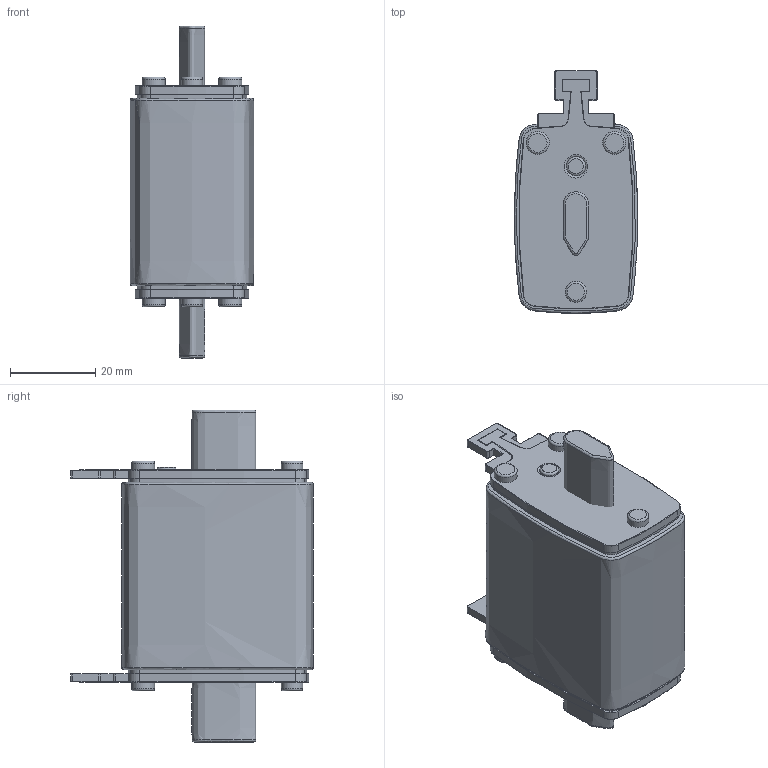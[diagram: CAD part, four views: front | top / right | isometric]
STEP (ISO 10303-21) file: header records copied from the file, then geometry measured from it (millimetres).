
FILE_DESCRIPTION(/* description */ (''),/* implementation_level */ '2;1');
FILE_NAME(/* name */ '3D NH00 500V-120KW-100A DATA.stp',/* time_stamp */ '2022-12-28T08:31:23+03:00',/* author */ (''),/* organization */ (''),/* preprocessor_version */ 'ST-DEVELOPER v16.7',/* originating_system */ 'SIEMENS PLM Software NX 1915',/* authorisation */ '');
FILE_SCHEMA (('AP203_CONFIGURATION_CONTROLLED_3D_DESIGN_OF_MECHANICAL_PARTS_AND_ASSEMBLIES_MIM_LF { 1 0 10303 403 2 1 2}'));
Length unit declared in the file: millimetre
Products named in the file (1): 3D NH00 500V-120KW-100A DATA
Bounding box: 29 x 57 x 78 mm (x, y, z)
Volume: 44383.9 mm3; surface area: 24327.5 mm2
Topology: 20 solids, 20 shells, 360 faces, 875 edges, 561 vertices
Faces by surface type: cylinder 170, plane 135, torus 47, extrusion 4, bspline 4
Full cylindrical faces by diameter (mm): 2.8 x6, 3 x11, 3.2 x1, 4.5 x2, 5 x4, 5.4 x4, 5.5 x1, 6 x1
Entity records: 12444 total; most frequent: CARTESIAN_POINT 3346, DIRECTION 1893, ORIENTED_EDGE 1628, EDGE_CURVE 814, AXIS2_PLACEMENT_3D 740, VERTEX_POINT 551, EDGE_LOOP 449, VECTOR 413
